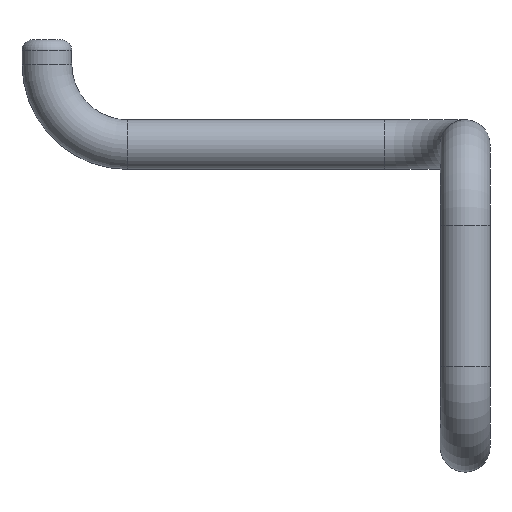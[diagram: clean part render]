
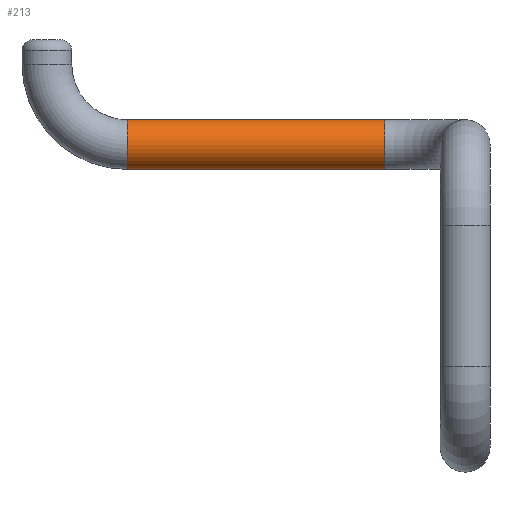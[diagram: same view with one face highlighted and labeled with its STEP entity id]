
A CAD part, left-side view. The second image highlights one B-rep face of the part: STEP entity #213.
In plain terms, the highlighted cylindrical face has radius 0.925 mm (diameter 1.85 mm), a full revolution.
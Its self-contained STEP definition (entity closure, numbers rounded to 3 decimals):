
#92 = TOROIDAL_SURFACE('',#93,3.,0.925);
#93 = AXIS2_PLACEMENT_3D('',#94,#95,#96);
#94 = CARTESIAN_POINT('',(-1.27,-12.428,-6.5));
#95 = DIRECTION('',(1.,-0.,0.));
#96 = DIRECTION('',(0.,0.,-1.));
#164 = VERTEX_POINT('',#165);
#165 = CARTESIAN_POINT('',(-1.27,-12.428,-8.575));
#188 = EDGE_CURVE('',#164,#164,#189,.T.);
#189 = SURFACE_CURVE('',#190,(#195,#201),.PCURVE_S1.);
#190 = CIRCLE('',#191,0.925);
#191 = AXIS2_PLACEMENT_3D('',#192,#193,#194);
#192 = CARTESIAN_POINT('',(-1.27,-12.428,-9.5));
#193 = DIRECTION('',(0.,1.,0.));
#194 = DIRECTION('',(0.,0.,1.));
#195 = PCURVE('',#92,#196);
#196 = DEFINITIONAL_REPRESENTATION('',(#197),#200);
#197 = B_SPLINE_CURVE_WITH_KNOTS('',1,(#198,#199),.UNSPECIFIED.,.F.,.F.,
  (2,2),(0.,6.283),.PIECEWISE_BEZIER_KNOTS.);
#198 = CARTESIAN_POINT('',(0.,9.425));
#199 = CARTESIAN_POINT('',(0.,3.142));
#200 = ( GEOMETRIC_REPRESENTATION_CONTEXT(2) 
PARAMETRIC_REPRESENTATION_CONTEXT() REPRESENTATION_CONTEXT('2D SPACE',''
  ) );
#201 = PCURVE('',#202,#207);
#202 = CYLINDRICAL_SURFACE('',#203,0.925);
#203 = AXIS2_PLACEMENT_3D('',#204,#205,#206);
#204 = CARTESIAN_POINT('',(-1.27,-21.99,-9.5));
#205 = DIRECTION('',(0.,1.,0.));
#206 = DIRECTION('',(0.,-0.,1.));
#207 = DEFINITIONAL_REPRESENTATION('',(#208),#212);
#208 = LINE('',#209,#210);
#209 = CARTESIAN_POINT('',(0.,9.562));
#210 = VECTOR('',#211,1.);
#211 = DIRECTION('',(1.,0.));
#212 = ( GEOMETRIC_REPRESENTATION_CONTEXT(2) 
PARAMETRIC_REPRESENTATION_CONTEXT() REPRESENTATION_CONTEXT('2D SPACE',''
  ) );
#213 = ADVANCED_FACE('',(#214),#202,.T.);
#214 = FACE_BOUND('',#215,.T.);
#215 = EDGE_LOOP('',(#216,#238,#239,#240));
#216 = ORIENTED_EDGE('',*,*,#217,.T.);
#217 = EDGE_CURVE('',#218,#164,#220,.T.);
#218 = VERTEX_POINT('',#219);
#219 = CARTESIAN_POINT('',(-1.27,-21.99,-8.575));
#220 = SEAM_CURVE('',#221,(#225,#232),.PCURVE_S1.);
#221 = LINE('',#222,#223);
#222 = CARTESIAN_POINT('',(-1.27,-21.99,-8.575));
#223 = VECTOR('',#224,1.);
#224 = DIRECTION('',(0.,1.,0.));
#225 = PCURVE('',#202,#226);
#226 = DEFINITIONAL_REPRESENTATION('',(#227),#231);
#227 = LINE('',#228,#229);
#228 = CARTESIAN_POINT('',(6.283,0.));
#229 = VECTOR('',#230,1.);
#230 = DIRECTION('',(0.,1.));
#231 = ( GEOMETRIC_REPRESENTATION_CONTEXT(2) 
PARAMETRIC_REPRESENTATION_CONTEXT() REPRESENTATION_CONTEXT('2D SPACE',''
  ) );
#232 = PCURVE('',#202,#233);
#233 = DEFINITIONAL_REPRESENTATION('',(#234),#237);
#234 = B_SPLINE_CURVE_WITH_KNOTS('',1,(#235,#236),.UNSPECIFIED.,.F.,.F.,
  (2,2),(0.,9.562),.PIECEWISE_BEZIER_KNOTS.);
#235 = CARTESIAN_POINT('',(0.,0.));
#236 = CARTESIAN_POINT('',(0.,9.562));
#237 = ( GEOMETRIC_REPRESENTATION_CONTEXT(2) 
PARAMETRIC_REPRESENTATION_CONTEXT() REPRESENTATION_CONTEXT('2D SPACE',''
  ) );
#238 = ORIENTED_EDGE('',*,*,#188,.F.);
#239 = ORIENTED_EDGE('',*,*,#217,.F.);
#240 = ORIENTED_EDGE('',*,*,#241,.F.);
#241 = EDGE_CURVE('',#218,#218,#242,.T.);
#242 = SURFACE_CURVE('',#243,(#248,#254),.PCURVE_S1.);
#243 = CIRCLE('',#244,0.925);
#244 = AXIS2_PLACEMENT_3D('',#245,#246,#247);
#245 = CARTESIAN_POINT('',(-1.27,-21.99,-9.5));
#246 = DIRECTION('',(0.,-1.,0.));
#247 = DIRECTION('',(1.,0.,0.));
#248 = PCURVE('',#202,#249);
#249 = DEFINITIONAL_REPRESENTATION('',(#250),#253);
#250 = B_SPLINE_CURVE_WITH_KNOTS('',1,(#251,#252),.UNSPECIFIED.,.F.,.F.,
  (2,2),(1.571,7.854),.PIECEWISE_BEZIER_KNOTS.);
#251 = CARTESIAN_POINT('',(6.283,0.));
#252 = CARTESIAN_POINT('',(0.,0.));
#253 = ( GEOMETRIC_REPRESENTATION_CONTEXT(2) 
PARAMETRIC_REPRESENTATION_CONTEXT() REPRESENTATION_CONTEXT('2D SPACE',''
  ) );
#254 = PCURVE('',#255,#260);
#255 = TOROIDAL_SURFACE('',#256,3.,0.925);
#256 = AXIS2_PLACEMENT_3D('',#257,#258,#259);
#257 = CARTESIAN_POINT('',(-4.27,-21.99,-9.5));
#258 = DIRECTION('',(-0.,0.,1.));
#259 = DIRECTION('',(0.,-1.,0.));
#260 = DEFINITIONAL_REPRESENTATION('',(#261),#265);
#261 = LINE('',#262,#263);
#262 = CARTESIAN_POINT('',(1.571,0.));
#263 = VECTOR('',#264,1.);
#264 = DIRECTION('',(0.,1.));
#265 = ( GEOMETRIC_REPRESENTATION_CONTEXT(2) 
PARAMETRIC_REPRESENTATION_CONTEXT() REPRESENTATION_CONTEXT('2D SPACE',''
  ) );
